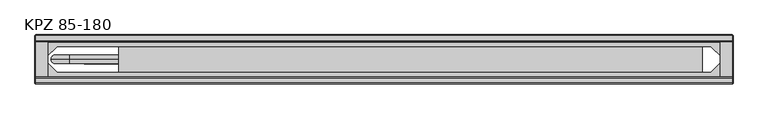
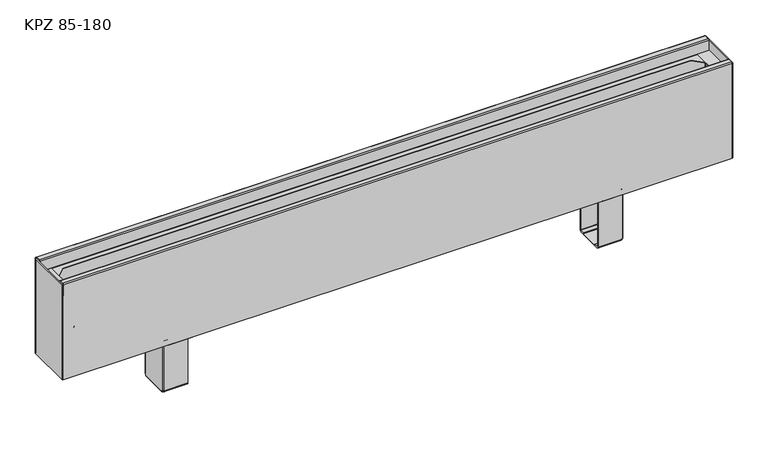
"""IFC4 building model written with IfcOpenShell, lengths in millimetres: proxy geometry, TECHNO_Конвектор напольный_Vita KPZ 85 : KPZ 85-180."""

from ifc_helpers import new_model, si_unit, point, frame, origin, place, context, project, spatial, polyline, circle_curve, ellipse_curve, trimmed, outline, extrude, source, transform, mapped, element, save
from ifc_brep_helpers import plane_surface, cylinder_surface, revolved_surface, advanced_brep


def kpz_85_180_26914a68(model_context):
    return source(origin(), model_context, "Body", "SolidModel", [
        advanced_brep(
        [(409.7, -116.8, 1.5), (409.7, -114.5, 3.8), (409.7, -114.5, 4.9), (409.7, -116.0, 4.9), (409.7, -116.0, 3.8), (409.7, -116.8, 3.0), (409.7, -124.5, 3.0), (409.7, -124.5, 1.5), (409.7, -117.6, 1.5), (409.7, -114.5, 97.7), (409.7, -113.7, 98.5), (409.7, -101.0, 98.5), (409.7, -101.0, 100.0), (409.7, -113.7, 100.0), (409.7, -116.0, 97.7), (409.7, -116.0, 95.5), (409.7, -114.5, 95.5), (409.7, -170.5, 3.8), (409.7, -168.2, 1.5), (409.7, -167.4, 1.5), (409.7, -160.5, 1.5), (409.7, -160.5, 3.0), (409.7, -168.2, 3.0), (409.7, -169.0, 3.8), (409.7, -169.0, 4.9), (409.7, -170.5, 4.9), (409.7, -169.0, 97.7), (409.7, -171.3, 100.0), (409.7, -184.0, 100.0), (409.7, -184.0, 98.5), (409.7, -171.3, 98.5), (409.7, -170.5, 97.7), (409.7, -170.5, 95.5), (409.7, -169.0, 95.5), (367.0, -170.5, 97.7), (367.0, -171.3, 98.5), (367.0, -184.0, 98.5), (367.0, -184.0, 100.0), (367.0, -171.3, 100.0), (367.0, -169.0, 97.7), (367.0, -169.0, 3.8), (367.0, -168.2, 3.0), (367.0, -160.5, 3.0), (367.0, -160.5, 1.5), (367.0, -124.5, 1.5), (367.0, -124.5, 3.0), (367.0, -116.8, 3.0), (367.0, -116.0, 3.8), (367.0, -116.0, 97.7), (367.0, -113.7, 100.0), (367.0, -101.0, 100.0), (367.0, -101.0, 98.5), (367.0, -113.7, 98.5), (367.0, -114.5, 97.7), (367.0, -114.5, 3.8), (367.0, -116.8, 1.5), (367.0, -117.6, 1.5), (367.0, -117.6, 0.0), (367.0, -167.4, 0.0), (367.0, -167.4, 1.5), (367.0, -168.2, 1.5), (367.0, -170.5, 3.8), (410.5, -116.8, 95.5), (410.5, -168.2, 95.5), (412.0, -168.2, 95.5), (412.0, -116.8, 95.5), (412.0, -116.8, 4.9), (412.0, -117.6, 4.9), (410.5, -117.6, 4.9), (410.5, -116.8, 4.9), (410.5, -168.2, 4.9), (410.5, -167.4, 4.9), (412.0, -167.4, 4.9), (412.0, -168.2, 4.9), (410.5, -117.6, 2.3), (410.5, -167.4, 2.3), (412.0, -167.4, 2.3), (412.0, -117.6, 2.3), (409.7, -117.6, 0.0), (409.7, -167.4, 0.0)],
        [
            (0, 1, circle_curve(frame((409.7, -116.8, 3.8), z_axis=(1.0, 0.0, 0.0), x_axis=(0.0, -1.0, 0.0)), 2.3)),
            (1, 2),
            (2, 3),
            (3, 4),
            (4, 5, circle_curve(frame((409.7, -116.8, 3.8), z_axis=(-1.0, 0.0, 0.0), x_axis=(0.0, -1.0, 0.0)), 0.8)),
            (5, 6),
            (6, 7),
            (7, 8),
            (8, 0),
            (9, 10, circle_curve(frame((409.7, -113.7, 97.7), z_axis=(-1.0, 0.0, 0.0), x_axis=(0.0, -1.0, 0.0)), 0.8)),
            (10, 11),
            (11, 12),
            (12, 13),
            (13, 14, circle_curve(frame((409.7, -113.7, 97.7), z_axis=(1.0, 0.0, 0.0), x_axis=(0.0, -1.0, 0.0)), 2.3)),
            (14, 15),
            (15, 16),
            (16, 9),
            (17, 18, circle_curve(frame((409.7, -168.2, 3.8), z_axis=(1.0, 0.0, 0.0), x_axis=(0.0, -1.0, 0.0)), 2.3)),
            (18, 19),
            (19, 20),
            (20, 21),
            (21, 22),
            (22, 23, circle_curve(frame((409.7, -168.2, 3.8), z_axis=(-1.0, 0.0, 0.0), x_axis=(0.0, -1.0, 0.0)), 0.8)),
            (23, 24),
            (24, 25),
            (25, 17),
            (26, 27, circle_curve(frame((409.7, -171.3, 97.7), z_axis=(1.0, 0.0, 0.0), x_axis=(0.0, -1.0, 0.0)), 2.3)),
            (27, 28),
            (28, 29),
            (29, 30),
            (30, 31, circle_curve(frame((409.7, -171.3, 97.7), z_axis=(-1.0, 0.0, 0.0), x_axis=(0.0, -1.0, 0.0)), 0.8)),
            (31, 32),
            (32, 33),
            (33, 26),
            (34, 35, circle_curve(frame((367.0, -171.3, 97.7), z_axis=(1.0, 0.0, 0.0), x_axis=(0.0, -1.0, 0.0)), 0.8)),
            (35, 36),
            (36, 37),
            (37, 38),
            (38, 39, circle_curve(frame((367.0, -171.3, 97.7), z_axis=(-1.0, 0.0, 0.0), x_axis=(0.0, -1.0, 0.0)), 2.3)),
            (39, 40),
            (40, 41, circle_curve(frame((367.0, -168.2, 3.8), z_axis=(1.0, 0.0, 0.0), x_axis=(0.0, -1.0, 0.0)), 0.8)),
            (41, 42),
            (42, 43),
            (43, 44),
            (44, 45),
            (45, 46),
            (46, 47, circle_curve(frame((367.0, -116.8, 3.8), z_axis=(1.0, 0.0, 0.0), x_axis=(0.0, -1.0, 0.0)), 0.8)),
            (47, 48),
            (48, 49, circle_curve(frame((367.0, -113.7, 97.7), z_axis=(-1.0, 0.0, 0.0), x_axis=(0.0, -1.0, 0.0)), 2.3)),
            (49, 50),
            (50, 51),
            (51, 52),
            (52, 53, circle_curve(frame((367.0, -113.7, 97.7), z_axis=(1.0, 0.0, 0.0), x_axis=(0.0, -1.0, 0.0)), 0.8)),
            (53, 54),
            (54, 55, circle_curve(frame((367.0, -116.8, 3.8), z_axis=(-1.0, 0.0, 0.0), x_axis=(0.0, -1.0, 0.0)), 2.3)),
            (55, 56),
            (56, 57),
            (57, 58),
            (58, 59),
            (59, 60),
            (60, 61, circle_curve(frame((367.0, -168.2, 3.8), z_axis=(-1.0, 0.0, 0.0), x_axis=(0.0, -1.0, 0.0)), 2.3)),
            (61, 34),
            (30, 35),
            (34, 31),
            (29, 36),
            (28, 37),
            (27, 38),
            (26, 39),
            (33, 24),
            (23, 40),
            (22, 41),
            (5, 46),
            (45, 6),
            (4, 47),
            (3, 15),
            (14, 48),
            (13, 49),
            (12, 50),
            (11, 51),
            (10, 52),
            (9, 53),
            (16, 2),
            (1, 54),
            (0, 55),
            (8, 56),
            (17, 61),
            (60, 18),
            (25, 32),
            (21, 42),
            (20, 43),
            (59, 19),
            (44, 7),
            (15, 62, circle_curve(frame((409.7, -116.8, 95.5), z_axis=(0.0, 0.0, -1.0), x_axis=(-1.0, 0.0, 0.0)), 0.8)),
            (62, 63),
            (63, 33, circle_curve(frame((409.7, -168.2, 95.5), z_axis=(0.0, 0.0, -1.0), x_axis=(-1.0, 0.0, 0.0)), 0.8)),
            (32, 64, circle_curve(frame((409.7, -168.2, 95.5), z_axis=(0.0, 0.0, 1.0), x_axis=(-1.0, 0.0, 0.0)), 2.3)),
            (64, 65),
            (65, 16, circle_curve(frame((409.7, -116.8, 95.5), z_axis=(0.0, 0.0, 1.0), x_axis=(-1.0, 0.0, 0.0)), 2.3)),
            (2, 66, circle_curve(frame((409.7, -116.8, 4.9), z_axis=(0.0, 0.0, -1.0), x_axis=(-1.0, 0.0, 0.0)), 2.3)),
            (66, 67),
            (67, 68),
            (68, 69),
            (69, 3, circle_curve(frame((409.7, -116.8, 4.9), z_axis=(0.0, 0.0, 1.0), x_axis=(-1.0, 0.0, 0.0)), 0.8)),
            (24, 70, circle_curve(frame((409.7, -168.2, 4.9), z_axis=(0.0, 0.0, 1.0), x_axis=(-1.0, 0.0, 0.0)), 0.8)),
            (70, 71),
            (71, 72),
            (72, 73),
            (73, 25, circle_curve(frame((409.7, -168.2, 4.9), z_axis=(0.0, 0.0, -1.0), x_axis=(-1.0, 0.0, 0.0)), 2.3)),
            (69, 62),
            (68, 74),
            (74, 75),
            (75, 71),
            (70, 63),
            (64, 73),
            (72, 76),
            (76, 77),
            (77, 67),
            (66, 65),
            (8, 74, circle_curve(frame((409.7, -117.6, 2.3), z_axis=(0.0, -1.0, 0.0), x_axis=(-1.0, 0.0, 0.0)), 0.8)),
            (77, 78, circle_curve(frame((409.7, -117.6, 2.3), z_axis=(0.0, 1.0, 0.0), x_axis=(-1.0, 0.0, 0.0)), 2.3)),
            (78, 57),
            (58, 79),
            (79, 76, circle_curve(frame((409.7, -167.4, 2.3), z_axis=(0.0, -1.0, 0.0), x_axis=(-1.0, 0.0, 0.0)), 2.3)),
            (75, 19, circle_curve(frame((409.7, -167.4, 2.3), z_axis=(0.0, 1.0, 0.0), x_axis=(-1.0, 0.0, 0.0)), 0.8)),
            (20, 7),
            (79, 78),
        ],
        [
            plane_surface(frame((409.7, -172.1, 97.7), z_axis=(1.0, 0.0, 0.0), x_axis=(0.0, 0.0, 1.0))),
            plane_surface(frame((367.0, -172.1, 97.7), z_axis=(-1.0, 0.0, 0.0), x_axis=(0.0, 0.0, -1.0))),
            revolved_surface(polyline([(409.7, -172.10000000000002, 97.7), (367.0, -172.10000000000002, 97.7)]), (409.7, -171.3, 97.7), (1.0, 0.0, 0.0)),
            plane_surface(frame((367.0, -171.3, 98.5), z_axis=(0.0, 0.0, -1.0), x_axis=(1.0, 0.0, 0.0))),
            plane_surface(frame((367.0, -184.0, 98.5), z_axis=(0.0, -1.0, 0.0), x_axis=(1.0, 0.0, 0.0))),
            plane_surface(frame((367.0, -184.0, 100.0), z_axis=(0.0, 0.0, 1.0), x_axis=(1.0, 0.0, 0.0))),
            cylinder_surface(frame((409.7, -171.3, 97.7), z_axis=(-1.0, 0.0, 0.0), x_axis=(0.0, -1.0, 0.0)), 2.3),
            plane_surface(frame((367.0, -169.0, 97.7), z_axis=(0.0, 1.0, 3.6919938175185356e-12), x_axis=(1.0, 0.0, 0.0))),
            revolved_surface(polyline([(409.7, -169.0, 3.8), (367.0, -169.0, 3.8)]), (409.7, -168.2, 3.8), (1.0, 0.0, 0.0)),
            plane_surface(frame((367.0, -124.5, 3.0), z_axis=(0.0, 0.0, 1.0), x_axis=(1.0, 0.0, 0.0))),
            revolved_surface(polyline([(409.7, -117.6, 3.8), (367.0, -117.6, 3.8)]), (412.0, -116.8, 3.8), (1.0, 0.0, 0.0)),
            plane_surface(frame((367.0, -116.0, 3.8), z_axis=(0.0, -1.0, 0.0), x_axis=(1.0, 0.0, 0.0))),
            cylinder_surface(frame((412.0, -113.7, 97.7), z_axis=(-1.0, 0.0, 0.0), x_axis=(0.0, -1.0, 0.0)), 2.3),
            plane_surface(frame((367.0, -113.7, 100.0), z_axis=(0.0, 0.0, 1.0), x_axis=(1.0, 0.0, 0.0))),
            plane_surface(frame((367.0, -101.0, 100.0), z_axis=(0.0, 1.0, 0.0), x_axis=(1.0, 0.0, 0.0))),
            plane_surface(frame((367.0, -101.0, 98.5), z_axis=(0.0, 0.0, -1.0), x_axis=(1.0, 0.0, 0.0))),
            revolved_surface(polyline([(409.7, -114.5, 97.7), (367.0, -114.5, 97.7)]), (412.0, -113.7, 97.7), (1.0, 0.0, 0.0)),
            plane_surface(frame((367.0, -114.5, 97.7), z_axis=(0.0, 1.0, 0.0), x_axis=(1.0, 0.0, 0.0))),
            cylinder_surface(frame((412.0, -116.8, 3.8), z_axis=(-1.0, 0.0, 0.0), x_axis=(0.0, -1.0, 0.0)), 2.3),
            plane_surface(frame((367.0, -116.8, 1.5), z_axis=(0.0, 0.0, -1.0), x_axis=(1.0, 0.0, 0.0))),
            cylinder_surface(frame((409.7, -168.2, 3.8), z_axis=(-1.0, 0.0, 0.0), x_axis=(0.0, -1.0, 0.0)), 2.3),
            plane_surface(frame((367.0, -170.5, 3.8), z_axis=(0.0, -1.0, 0.0), x_axis=(1.0, 0.0, 0.0))),
            plane_surface(frame((367.0, -168.2, 3.0), z_axis=(0.0, 0.0, 1.0), x_axis=(1.0, 0.0, 0.0))),
            plane_surface(frame((367.0, -160.5, 3.0), z_axis=(0.0, 1.0, 0.0), x_axis=(1.0, 0.0, 0.0))),
            plane_surface(frame((367.0, -160.5, 1.5), z_axis=(0.0, 0.0, -1.0), x_axis=(1.0, 0.0, 0.0))),
            plane_surface(frame((367.0, -124.5, 1.5), z_axis=(0.0, -1.0, 0.0), x_axis=(1.0, 0.0, 0.0))),
            plane_surface(frame((409.7, -116.0, 95.5), z_axis=(0.0, 0.0, 1.0), x_axis=(0.0, -1.0, 0.0))),
            plane_surface(frame((409.7, -116.0, 4.9), z_axis=(0.0, 0.0, -1.0), x_axis=(0.0, 1.0, 0.0))),
            revolved_surface(polyline([(408.9, -116.8, 4.9), (408.9, -116.8, 95.5)]), (409.7, -116.8, 4.9), (0.0, 0.0, -1.0)),
            plane_surface(frame((410.5, -116.8, 95.5), z_axis=(-1.0, 0.0, 0.0), x_axis=(0.0, 0.0, -1.0))),
            plane_surface(frame((412.0, -117.6, 95.5), z_axis=(1.0, -4.3226800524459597e-10, 0.0), x_axis=(0.0, 0.0, -1.0))),
            cylinder_surface(frame((409.7, -116.8, 4.9), z_axis=(0.0, 0.0, 1.0), x_axis=(-1.0, 0.0, 0.0)), 2.3),
            cylinder_surface(frame((409.7, -168.2, 0.0), z_axis=(0.0, 0.0, 1.0), x_axis=(-1.0, 0.0, 0.0)), 2.3),
            revolved_surface(polyline([(408.9, -168.2, 4.9), (408.9, -168.2, 95.5)]), (409.7, -168.2, 0.0), (0.0, 0.0, -1.0)),
            plane_surface(frame((367.0, -117.6, 1.5), z_axis=(0.0, 1.0, 0.0), x_axis=(0.0, 0.0, 1.0))),
            plane_surface(frame((367.0, -167.4, 1.5), z_axis=(0.0, -1.0, 0.0), x_axis=(0.0, 0.0, -1.0))),
            plane_surface(frame((367.0, -117.6, 1.5), z_axis=(0.0, 0.0, 1.0), x_axis=(0.0, -1.0, 0.0))),
            revolved_surface(polyline([(408.9, -167.4, 2.3), (408.9, -117.6, 2.3)]), (409.7, -167.4, 2.3), (0.0, -1.0, 0.0)),
            cylinder_surface(frame((409.7, -167.4, 2.3), z_axis=(0.0, 1.0, 0.0), x_axis=(-1.0, 0.0, 0.0)), 2.3),
            plane_surface(frame((409.7, -117.6, 0.0), z_axis=(0.0, 0.0, -1.0), x_axis=(0.0, -1.0, 0.0))),
        ],
        [
            (0, [[1, 2, 3, 4, 5, 6, 7, 8, 9]]),
            (0, [[10, 11, 12, 13, 14, 15, 16, 17]]),
            (0, [[18, 19, 20, 21, 22, 23, 24, 25, 26]]),
            (0, [[27, 28, 29, 30, 31, 32, 33, 34]]),
            (1, [[35, 36, 37, 38, 39, 40, 41, 42, 43, 44, 45, 46, 47, 48, 49, 50, 51, 52, 53, 54, 55, 56, 57, 58, 59, 60, 61, 62]]),
            (2, [[-31, 63, -35, 64]]),
            (3, [[-30, 65, -36, -63]]),
            (4, [[-29, 66, -37, -65]]),
            (5, [[-28, 67, -38, -66]]),
            (6, [[-27, 68, -39, -67]]),
            (7, [[-40, -68, -34, 69, -24, 70]]),
            (8, [[-23, 71, -41, -70]]),
            (9, [[-6, 72, -46, 73]]),
            (10, [[-5, 74, -47, -72]]),
            (11, [[-48, -74, -4, 75, -15, 76]]),
            (12, [[-14, 77, -49, -76]]),
            (13, [[-13, 78, -50, -77]]),
            (14, [[-12, 79, -51, -78]]),
            (15, [[-11, 80, -52, -79]]),
            (16, [[-10, 81, -53, -80]]),
            (17, [[-54, -81, -17, 82, -2, 83]]),
            (18, [[-1, 84, -55, -83]]),
            (19, [[-84, -9, 85, -56]]),
            (20, [[-18, 86, -61, 87]]),
            (21, [[-62, -86, -26, 88, -32, -64]]),
            (22, [[-22, 89, -42, -71]]),
            (23, [[-21, 90, -43, -89]]),
            (24, [[-87, -60, 91, -19]]),
            (25, [[-7, -73, -45, 92]]),
            (26, [[93, 94, 95, -33, 96, 97, 98, -16]]),
            (27, [[99, 100, 101, 102, 103, -3]]),
            (27, [[104, 105, 106, 107, 108, -25]]),
            (28, [[-93, -75, -103, 109]]),
            (29, [[-94, -109, -102, 110, 111, 112, -105, 113]]),
            (30, [[-97, 114, -107, 115, 116, 117, -100, 118]]),
            (31, [[-98, -118, -99, -82]]),
            (32, [[-96, -88, -108, -114]]),
            (33, [[-95, -113, -104, -69]]),
            (34, [[-57, -85, 119, -110, -101, -117, 120, 121]]),
            (35, [[122, 123, -115, -106, -112, 124, -91, -59]]),
            (36, [[125, -92, -44, -90]]),
            (37, [[-119, -8, -125, -20, -124, -111]]),
            (38, [[-120, -116, -123, 126]]),
            (39, [[-121, -126, -122, -58]]),
        ],
    ),
        advanced_brep(
        [(-409.7, -168.2, 1.5), (-409.7, -170.5, 3.8), (-409.7, -170.5, 4.9), (-409.7, -169.0, 4.9), (-409.7, -169.0, 3.8), (-409.7, -168.2, 3.0), (-409.7, -160.5, 3.0), (-409.7, -160.5, 1.5), (-409.7, -167.4, 1.5), (-409.7, -170.5, 97.7), (-409.7, -171.3, 98.5), (-409.7, -184.0, 98.5), (-409.7, -184.0, 100.0), (-409.7, -171.3, 100.0), (-409.7, -169.0, 97.7), (-409.7, -169.0, 95.5), (-409.7, -170.5, 95.5), (-409.7, -114.5, 3.8), (-409.7, -116.8, 1.5), (-409.7, -117.6, 1.5), (-409.7, -124.5, 1.5), (-409.7, -124.5, 3.0), (-409.7, -116.8, 3.0), (-409.7, -116.0, 3.8), (-409.7, -116.0, 4.9), (-409.7, -114.5, 4.9), (-409.7, -116.0, 97.7), (-409.7, -113.7, 100.0), (-409.7, -101.0, 100.0), (-409.7, -101.0, 98.5), (-409.7, -113.7, 98.5), (-409.7, -114.5, 97.7), (-409.7, -114.5, 95.5), (-409.7, -116.0, 95.5), (-367.0, -114.5, 97.7), (-367.0, -113.7, 98.5), (-367.0, -101.0, 98.5), (-367.0, -101.0, 100.0), (-367.0, -113.7, 100.0), (-367.0, -116.0, 97.7), (-367.0, -116.0, 3.8), (-367.0, -116.8, 3.0), (-367.0, -124.5, 3.0), (-367.0, -124.5, 1.5), (-367.0, -160.5, 1.5), (-367.0, -160.5, 3.0), (-367.0, -168.2, 3.0), (-367.0, -169.0, 3.8), (-367.0, -169.0, 97.7), (-367.0, -171.3, 100.0), (-367.0, -184.0, 100.0), (-367.0, -184.0, 98.5), (-367.0, -171.3, 98.5), (-367.0, -170.5, 97.7), (-367.0, -170.5, 3.8), (-367.0, -168.2, 1.5), (-367.0, -167.4, 1.5), (-367.0, -167.4, 0.0), (-367.0, -117.6, 0.0), (-367.0, -117.6, 1.5), (-367.0, -116.8, 1.5), (-367.0, -114.5, 3.8), (-410.5, -168.2, 95.5), (-410.5, -116.8, 95.5), (-412.0, -116.8, 95.5), (-412.0, -168.2, 95.5), (-412.0, -168.2, 4.9), (-412.0, -167.4, 4.9), (-410.5, -167.4, 4.9), (-410.5, -168.2, 4.9), (-410.5, -116.8, 4.9), (-410.5, -117.6, 4.9), (-412.0, -117.6, 4.9), (-412.0, -116.8, 4.9), (-410.5, -167.4, 2.3), (-410.5, -117.6, 2.3), (-412.0, -117.6, 2.3), (-412.0, -167.4, 2.3), (-409.7, -167.4, 0.0), (-409.7, -117.6, 0.0)],
        [
            (0, 1, circle_curve(frame((-409.7, -168.2, 3.8), z_axis=(-1.0, 0.0, 0.0), x_axis=(0.0, 1.0, 0.0)), 2.3)),
            (1, 2),
            (2, 3),
            (3, 4),
            (4, 5, circle_curve(frame((-409.7, -168.2, 3.8), z_axis=(1.0, 0.0, 0.0), x_axis=(0.0, 1.0, 0.0)), 0.8)),
            (5, 6),
            (6, 7),
            (7, 8),
            (8, 0),
            (9, 10, circle_curve(frame((-409.7, -171.3, 97.7), z_axis=(1.0, 0.0, 0.0), x_axis=(0.0, 1.0, 0.0)), 0.8)),
            (10, 11),
            (11, 12),
            (12, 13),
            (13, 14, circle_curve(frame((-409.7, -171.3, 97.7), z_axis=(-1.0, 0.0, 0.0), x_axis=(0.0, 1.0, 0.0)), 2.3)),
            (14, 15),
            (15, 16),
            (16, 9),
            (17, 18, circle_curve(frame((-409.7, -116.8, 3.8), z_axis=(-1.0, 0.0, 0.0), x_axis=(0.0, 1.0, 0.0)), 2.3)),
            (18, 19),
            (19, 20),
            (20, 21),
            (21, 22),
            (22, 23, circle_curve(frame((-409.7, -116.8, 3.8), z_axis=(1.0, 0.0, 0.0), x_axis=(0.0, 1.0, 0.0)), 0.8)),
            (23, 24),
            (24, 25),
            (25, 17),
            (26, 27, circle_curve(frame((-409.7, -113.7, 97.7), z_axis=(-1.0, 0.0, 0.0), x_axis=(0.0, 1.0, 0.0)), 2.3)),
            (27, 28),
            (28, 29),
            (29, 30),
            (30, 31, circle_curve(frame((-409.7, -113.7, 97.7), z_axis=(1.0, 0.0, 0.0), x_axis=(0.0, 1.0, 0.0)), 0.8)),
            (31, 32),
            (32, 33),
            (33, 26),
            (34, 35, circle_curve(frame((-367.0, -113.7, 97.7), z_axis=(-1.0, 0.0, 0.0), x_axis=(0.0, 1.0, 0.0)), 0.8)),
            (35, 36),
            (36, 37),
            (37, 38),
            (38, 39, circle_curve(frame((-367.0, -113.7, 97.7), z_axis=(1.0, 0.0, 0.0), x_axis=(0.0, 1.0, 0.0)), 2.3)),
            (39, 40),
            (40, 41, circle_curve(frame((-367.0, -116.8, 3.8), z_axis=(-1.0, 0.0, 0.0), x_axis=(0.0, 1.0, 0.0)), 0.8)),
            (41, 42),
            (42, 43),
            (43, 44),
            (44, 45),
            (45, 46),
            (46, 47, circle_curve(frame((-367.0, -168.2, 3.8), z_axis=(-1.0, 0.0, 0.0), x_axis=(0.0, 1.0, 0.0)), 0.8)),
            (47, 48),
            (48, 49, circle_curve(frame((-367.0, -171.3, 97.7), z_axis=(1.0, 0.0, 0.0), x_axis=(0.0, 1.0, 0.0)), 2.3)),
            (49, 50),
            (50, 51),
            (51, 52),
            (52, 53, circle_curve(frame((-367.0, -171.3, 97.7), z_axis=(-1.0, 0.0, 0.0), x_axis=(0.0, 1.0, 0.0)), 0.8)),
            (53, 54),
            (54, 55, circle_curve(frame((-367.0, -168.2, 3.8), z_axis=(1.0, 0.0, 0.0), x_axis=(0.0, 1.0, 0.0)), 2.3)),
            (55, 56),
            (56, 57),
            (57, 58),
            (58, 59),
            (59, 60),
            (60, 61, circle_curve(frame((-367.0, -116.8, 3.8), z_axis=(1.0, 0.0, 0.0), x_axis=(0.0, 1.0, 0.0)), 2.3)),
            (61, 34),
            (30, 35),
            (34, 31),
            (29, 36),
            (28, 37),
            (27, 38),
            (26, 39),
            (33, 24),
            (23, 40),
            (22, 41),
            (5, 46),
            (45, 6),
            (4, 47),
            (3, 15),
            (14, 48),
            (13, 49),
            (12, 50),
            (11, 51),
            (10, 52),
            (9, 53),
            (16, 2),
            (1, 54),
            (0, 55),
            (8, 56),
            (17, 61),
            (60, 18),
            (25, 32),
            (21, 42),
            (20, 43),
            (59, 19),
            (44, 7),
            (15, 62, circle_curve(frame((-409.7, -168.2, 95.5), z_axis=(0.0, 0.0, -1.0), x_axis=(1.0, 0.0, 0.0)), 0.8)),
            (62, 63),
            (63, 33, circle_curve(frame((-409.7, -116.8, 95.5), z_axis=(0.0, 0.0, -1.0), x_axis=(1.0, 0.0, 0.0)), 0.8)),
            (32, 64, circle_curve(frame((-409.7, -116.8, 95.5), z_axis=(0.0, 0.0, 1.0), x_axis=(1.0, 0.0, 0.0)), 2.3)),
            (64, 65),
            (65, 16, circle_curve(frame((-409.7, -168.2, 95.5), z_axis=(0.0, 0.0, 1.0), x_axis=(1.0, 0.0, 0.0)), 2.3)),
            (2, 66, circle_curve(frame((-409.7, -168.2, 4.9), z_axis=(0.0, 0.0, -1.0), x_axis=(1.0, 0.0, 0.0)), 2.3)),
            (66, 67),
            (67, 68),
            (68, 69),
            (69, 3, circle_curve(frame((-409.7, -168.2, 4.9), z_axis=(0.0, 0.0, 1.0), x_axis=(1.0, 0.0, 0.0)), 0.8)),
            (24, 70, circle_curve(frame((-409.7, -116.8, 4.9), z_axis=(0.0, 0.0, 1.0), x_axis=(1.0, 0.0, 0.0)), 0.8)),
            (70, 71),
            (71, 72),
            (72, 73),
            (73, 25, circle_curve(frame((-409.7, -116.8, 4.9), z_axis=(0.0, 0.0, -1.0), x_axis=(1.0, 0.0, 0.0)), 2.3)),
            (69, 62),
            (68, 74),
            (74, 75),
            (75, 71),
            (70, 63),
            (64, 73),
            (72, 76),
            (76, 77),
            (77, 67),
            (66, 65),
            (8, 74, circle_curve(frame((-409.7, -167.4, 2.3), z_axis=(0.0, 1.0, 0.0), x_axis=(1.0, 0.0, 0.0)), 0.8)),
            (77, 78, circle_curve(frame((-409.7, -167.4, 2.3), z_axis=(0.0, -1.0, 0.0), x_axis=(1.0, 0.0, 0.0)), 2.3)),
            (78, 57),
            (58, 79),
            (79, 76, circle_curve(frame((-409.7, -117.6, 2.3), z_axis=(0.0, 1.0, 0.0), x_axis=(1.0, 0.0, 0.0)), 2.3)),
            (75, 19, circle_curve(frame((-409.7, -117.6, 2.3), z_axis=(0.0, -1.0, 0.0), x_axis=(1.0, 0.0, 0.0)), 0.8)),
            (20, 7),
            (79, 78),
        ],
        [
            plane_surface(frame((-409.7, -112.9, 97.7), z_axis=(-1.0, 0.0, 0.0), x_axis=(0.0, 0.0, 1.0))),
            plane_surface(frame((-367.0, -112.9, 97.7), z_axis=(1.0, 0.0, 0.0), x_axis=(0.0, 0.0, -1.0))),
            revolved_surface(polyline([(-409.7, -112.9, 97.7), (-367.0, -112.9, 97.7)]), (-409.7, -113.7, 97.7), (-1.0, 0.0, 0.0)),
            plane_surface(frame((-367.0, -113.7, 98.5), z_axis=(0.0, 0.0, -1.0), x_axis=(-1.0, 0.0, 0.0))),
            plane_surface(frame((-367.0, -101.0, 98.5), z_axis=(0.0, 1.0, 0.0), x_axis=(-1.0, 0.0, 0.0))),
            plane_surface(frame((-367.0, -101.0, 100.0), z_axis=(0.0, 0.0, 1.0), x_axis=(-1.0, 0.0, 0.0))),
            cylinder_surface(frame((-409.7, -113.7, 97.7), z_axis=(1.0, 0.0, 0.0), x_axis=(0.0, 1.0, 0.0)), 2.3),
            plane_surface(frame((-367.0, -116.0, 97.7), z_axis=(0.0, -1.0, 3.6919938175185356e-12), x_axis=(-1.0, 0.0, 0.0))),
            revolved_surface(polyline([(-409.7, -116.0, 3.8), (-367.0, -116.0, 3.8)]), (-409.7, -116.8, 3.8), (-1.0, 0.0, 0.0)),
            plane_surface(frame((-367.0, -160.5, 3.0), z_axis=(0.0, 0.0, 1.0), x_axis=(-1.0, 0.0, 0.0))),
            revolved_surface(polyline([(-409.7, -167.39999999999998, 3.8), (-367.0, -167.39999999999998, 3.8)]), (-412.0, -168.2, 3.8), (-1.0, 0.0, 0.0)),
            plane_surface(frame((-367.0, -169.0, 3.8), z_axis=(0.0, 1.0, 0.0), x_axis=(-1.0, 0.0, 0.0))),
            cylinder_surface(frame((-412.0, -171.3, 97.7), z_axis=(1.0, 0.0, 0.0), x_axis=(0.0, 1.0, 0.0)), 2.3),
            plane_surface(frame((-367.0, -171.3, 100.0), z_axis=(0.0, 0.0, 1.0), x_axis=(-1.0, 0.0, 0.0))),
            plane_surface(frame((-367.0, -184.0, 100.0), z_axis=(0.0, -1.0, 0.0), x_axis=(-1.0, 0.0, 0.0))),
            plane_surface(frame((-367.0, -184.0, 98.5), z_axis=(0.0, 0.0, -1.0), x_axis=(-1.0, 0.0, 0.0))),
            revolved_surface(polyline([(-409.7, -170.5, 97.7), (-367.0, -170.5, 97.7)]), (-412.0, -171.3, 97.7), (-1.0, 0.0, 0.0)),
            plane_surface(frame((-367.0, -170.5, 97.7), z_axis=(0.0, -1.0, 0.0), x_axis=(-1.0, 0.0, 0.0))),
            cylinder_surface(frame((-412.0, -168.2, 3.8), z_axis=(1.0, 0.0, 0.0), x_axis=(0.0, 1.0, 0.0)), 2.3),
            plane_surface(frame((-367.0, -168.2, 1.5), z_axis=(0.0, 0.0, -1.0), x_axis=(-1.0, 0.0, 0.0))),
            cylinder_surface(frame((-409.7, -116.8, 3.8), z_axis=(1.0, 0.0, 0.0), x_axis=(0.0, 1.0, 0.0)), 2.3),
            plane_surface(frame((-367.0, -114.5, 3.8), z_axis=(0.0, 1.0, 0.0), x_axis=(-1.0, 0.0, 0.0))),
            plane_surface(frame((-367.0, -116.8, 3.0), z_axis=(0.0, 0.0, 1.0), x_axis=(-1.0, 0.0, 0.0))),
            plane_surface(frame((-367.0, -124.5, 3.0), z_axis=(0.0, -1.0, 0.0), x_axis=(-1.0, 0.0, 0.0))),
            plane_surface(frame((-367.0, -124.5, 1.5), z_axis=(0.0, 0.0, -1.0), x_axis=(-1.0, 0.0, 0.0))),
            plane_surface(frame((-367.0, -160.5, 1.5), z_axis=(0.0, 1.0, 0.0), x_axis=(-1.0, 0.0, 0.0))),
            plane_surface(frame((-409.7, -169.0, 95.5), z_axis=(0.0, 0.0, 1.0), x_axis=(0.0, 1.0, 0.0))),
            plane_surface(frame((-409.7, -169.0, 4.9), z_axis=(0.0, 0.0, -1.0), x_axis=(0.0, -1.0, 0.0))),
            revolved_surface(polyline([(-408.9, -168.2, 4.9), (-408.9, -168.2, 95.5)]), (-409.7, -168.2, 4.9), (0.0, 0.0, -1.0)),
            plane_surface(frame((-410.5, -168.2, 95.5), z_axis=(1.0, 0.0, 0.0), x_axis=(0.0, 0.0, -1.0))),
            plane_surface(frame((-412.0, -167.4, 95.5), z_axis=(-1.0, 4.322648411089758e-10, 0.0), x_axis=(0.0, 0.0, -1.0))),
            cylinder_surface(frame((-409.7, -168.2, 4.9), z_axis=(0.0, 0.0, 1.0), x_axis=(1.0, 0.0, 0.0)), 2.3),
            cylinder_surface(frame((-409.7, -116.8, 0.0), z_axis=(0.0, 0.0, 1.0), x_axis=(1.0, 0.0, 0.0)), 2.3),
            revolved_surface(polyline([(-408.9, -116.8, 4.9), (-408.9, -116.8, 95.5)]), (-409.7, -116.8, 0.0), (0.0, 0.0, -1.0)),
            plane_surface(frame((-367.0, -167.4, 1.5), z_axis=(0.0, -1.0, 0.0), x_axis=(0.0, 0.0, 1.0))),
            plane_surface(frame((-367.0, -117.6, 1.5), z_axis=(0.0, 1.0, 0.0), x_axis=(0.0, 0.0, -1.0))),
            plane_surface(frame((-367.0, -167.4, 1.5), z_axis=(0.0, 0.0, 1.0), x_axis=(0.0, 1.0, 0.0))),
            revolved_surface(polyline([(-408.9, -117.6, 2.3), (-408.9, -167.4, 2.3)]), (-409.7, -117.6, 2.3), (0.0, 1.0, 0.0)),
            cylinder_surface(frame((-409.7, -117.6, 2.3), z_axis=(0.0, -1.0, 0.0), x_axis=(1.0, 0.0, 0.0)), 2.3),
            plane_surface(frame((-409.7, -167.4, 0.0), z_axis=(0.0, 0.0, -1.0), x_axis=(0.0, 1.0, 0.0))),
        ],
        [
            (0, [[1, 2, 3, 4, 5, 6, 7, 8, 9]]),
            (0, [[10, 11, 12, 13, 14, 15, 16, 17]]),
            (0, [[18, 19, 20, 21, 22, 23, 24, 25, 26]]),
            (0, [[27, 28, 29, 30, 31, 32, 33, 34]]),
            (1, [[35, 36, 37, 38, 39, 40, 41, 42, 43, 44, 45, 46, 47, 48, 49, 50, 51, 52, 53, 54, 55, 56, 57, 58, 59, 60, 61, 62]]),
            (2, [[-31, 63, -35, 64]]),
            (3, [[-30, 65, -36, -63]]),
            (4, [[-29, 66, -37, -65]]),
            (5, [[-28, 67, -38, -66]]),
            (6, [[-27, 68, -39, -67]]),
            (7, [[-40, -68, -34, 69, -24, 70]]),
            (8, [[-23, 71, -41, -70]]),
            (9, [[-6, 72, -46, 73]]),
            (10, [[-5, 74, -47, -72]]),
            (11, [[-48, -74, -4, 75, -15, 76]]),
            (12, [[-14, 77, -49, -76]]),
            (13, [[-13, 78, -50, -77]]),
            (14, [[-12, 79, -51, -78]]),
            (15, [[-11, 80, -52, -79]]),
            (16, [[-10, 81, -53, -80]]),
            (17, [[-54, -81, -17, 82, -2, 83]]),
            (18, [[-1, 84, -55, -83]]),
            (19, [[-84, -9, 85, -56]]),
            (20, [[-18, 86, -61, 87]]),
            (21, [[-62, -86, -26, 88, -32, -64]]),
            (22, [[-22, 89, -42, -71]]),
            (23, [[-21, 90, -43, -89]]),
            (24, [[-87, -60, 91, -19]]),
            (25, [[-7, -73, -45, 92]]),
            (26, [[93, 94, 95, -33, 96, 97, 98, -16]]),
            (27, [[99, 100, 101, 102, 103, -3]]),
            (27, [[104, 105, 106, 107, 108, -25]]),
            (28, [[-93, -75, -103, 109]]),
            (29, [[-94, -109, -102, 110, 111, 112, -105, 113]]),
            (30, [[-97, 114, -107, 115, 116, 117, -100, 118]]),
            (31, [[-98, -118, -99, -82]]),
            (32, [[-96, -88, -108, -114]]),
            (33, [[-95, -113, -104, -69]]),
            (34, [[-57, -85, 119, -110, -101, -117, 120, 121]]),
            (35, [[122, 123, -115, -106, -112, 124, -91, -59]]),
            (36, [[125, -92, -44, -90]]),
            (37, [[-119, -8, -125, -20, -124, -111]]),
            (38, [[-120, -116, -123, 126]]),
            (39, [[-121, -126, -122, -58]]),
        ],
    ),
        advanced_brep(
        [(-455.64, -142.5, 186.5), (-455.64, -142.5, 171.5), (-540.0, -142.5, 186.5), (-540.0, -142.5, 171.5), (-557.5, -142.5, 154.0), (-572.5, -142.5, 154.0), (-572.5, -142.5, 100.0), (-557.5, -142.5, 100.0)],
        [
            (0, 1, circle_curve(frame((-455.64, -142.5, 179.0), z_axis=(1.0, 0.0, 0.0), x_axis=(0.0, 0.0, -1.0)), 7.5)),
            (1, 0, circle_curve(frame((-455.64, -142.5, 179.0), z_axis=(1.0, 0.0, 0.0), x_axis=(0.0, 0.0, -1.0)), 7.5)),
            (0, 2),
            (2, 3, circle_curve(frame((-540.0, -142.5, 179.0), z_axis=(1.0, 0.0, 0.0), x_axis=(0.0, 0.0, -1.0)), 7.5)),
            (3, 1),
            (3, 2, circle_curve(frame((-540.0, -142.5, 179.0), z_axis=(1.0, 0.0, 0.0), x_axis=(0.0, 0.0, -1.0)), 7.5)),
            (4, 3, circle_curve(frame((-540.0, -142.5, 154.0), z_axis=(0.0, 1.0, 0.0), x_axis=(0.0, 0.0, 1.0)), 17.5)),
            (2, 5, circle_curve(frame((-540.0, -142.5, 154.0), z_axis=(0.0, -1.0, 0.0), x_axis=(0.0, 0.0, 1.0)), 32.5)),
            (5, 4, circle_curve(frame((-565.0, -142.5, 154.0), z_axis=(0.0, 0.0, 1.0), x_axis=(1.0, 0.0, 0.0)), 7.5)),
            (4, 5, circle_curve(frame((-565.0, -142.5, 154.0), z_axis=(0.0, 0.0, 1.0), x_axis=(1.0, 0.0, 0.0)), 7.5)),
            (6, 7, circle_curve(frame((-565.0, -142.5, 100.0), z_axis=(0.0, 0.0, -1.0), x_axis=(1.0, 0.0, 0.0)), 7.5)),
            (7, 6, circle_curve(frame((-565.0, -142.5, 100.0), z_axis=(0.0, 0.0, -1.0), x_axis=(1.0, 0.0, 0.0)), 7.5)),
            (5, 6),
            (7, 4),
        ],
        [
            plane_surface(frame((-455.64, -142.5, 179.0), z_axis=(1.0, 0.0, 0.0), x_axis=(0.0, -1.0, 0.0))),
            cylinder_surface(frame((-455.64, -142.5, 179.0), z_axis=(1.0, 0.0, 0.0), x_axis=(0.0, 0.0, -1.0)), 7.5),
            revolved_surface(trimmed(ellipse_curve(frame((-540.0, -142.5, 179.0), z_axis=(1.0, 0.0, 0.0), x_axis=(0.0, 0.0, -1.0)), 7.5, 7.5), [point((-540.0, -142.5, 186.5))], [point((-540.0, -142.5, 171.5))], True, "CARTESIAN"), (-540.0, -142.5, 154.0), (0.0, -1.0, 0.0)),
            revolved_surface(trimmed(ellipse_curve(frame((-540.0, -142.5, 179.0), z_axis=(1.0, 0.0, 0.0), x_axis=(0.0, 0.0, -1.0)), 7.5, 7.5), [point((-540.0, -142.5, 171.5))], [point((-540.0, -142.5, 186.5))], True, "CARTESIAN"), (-540.0, -142.5, 154.0), (0.0, -1.0, 0.0)),
            plane_surface(frame((-565.0, -142.5, 100.0), z_axis=(0.0, 0.0, -1.0), x_axis=(0.0, -1.0, 0.0))),
            cylinder_surface(frame((-565.0, -142.5, 154.0), z_axis=(0.0, 0.0, 1.0), x_axis=(1.0, 0.0, 0.0)), 7.5),
        ],
        [
            (0, [[1, 2]]),
            (1, [[-1, 3, 4, 5]]),
            (1, [[-2, -5, 6, -3]]),
            (2, [[7, -4, 8, 9]]),
            (3, [[-8, -6, -7, 10]]),
            (4, [[11, 12]]),
            (5, [[-9, 13, -12, 14]]),
            (5, [[-10, -14, -11, -13]]),
        ],
    ),
        advanced_brep(
        [(-455.64, -142.5, 136.5), (-455.64, -142.5, 121.5), (-522.5, -142.5, 136.5), (-507.5, -142.5, 121.5), (-522.5, -142.5, 100.0), (-507.5, -142.5, 100.0)],
        [
            (0, 1, circle_curve(frame((-455.64, -142.5, 129.0), z_axis=(1.0, 0.0, 0.0), x_axis=(0.0, 0.0, -1.0)), 7.5)),
            (1, 0, circle_curve(frame((-455.64, -142.5, 129.0), z_axis=(1.0, 0.0, 0.0), x_axis=(0.0, 0.0, -1.0)), 7.5)),
            (0, 2),
            (2, 3, ellipse_curve(frame((-515.0, -142.5, 129.0), z_axis=(0.7071067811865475, 0.0, 0.7071067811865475), x_axis=(0.7071067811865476, 0.0, -0.7071067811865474)), 10.6066017, 7.5)),
            (3, 1),
            (3, 2, ellipse_curve(frame((-515.0, -142.5, 129.0), z_axis=(0.7071067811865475, 0.0, 0.7071067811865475), x_axis=(0.7071067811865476, 0.0, -0.7071067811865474)), 10.6066017, 7.5)),
            (4, 5, circle_curve(frame((-515.0, -142.5, 100.0), z_axis=(0.0, 0.0, -1.0), x_axis=(1.0, 0.0, 0.0)), 7.5)),
            (5, 4, circle_curve(frame((-515.0, -142.5, 100.0), z_axis=(0.0, 0.0, -1.0), x_axis=(1.0, 0.0, 0.0)), 7.5)),
            (2, 4),
            (5, 3),
        ],
        [
            plane_surface(frame((-455.64, -142.5, 129.0), z_axis=(1.0, 0.0, 0.0), x_axis=(0.0, -1.0, 0.0))),
            cylinder_surface(frame((-455.64, -142.5, 129.0), z_axis=(1.0, 0.0, 0.0), x_axis=(0.0, 0.0, -1.0)), 7.5),
            plane_surface(frame((-515.0, -142.5, 100.0), z_axis=(0.0, 0.0, -1.0), x_axis=(0.0, -1.0, 0.0))),
            cylinder_surface(frame((-515.0, -142.5, 129.0), z_axis=(0.0, 0.0, 1.0), x_axis=(1.0, 0.0, 0.0)), 7.5),
        ],
        [
            (0, [[1, 2]]),
            (1, [[-1, 3, 4, 5]]),
            (1, [[-2, -5, 6, -3]]),
            (2, [[7, 8]]),
            (3, [[-4, 9, -8, 10]]),
            (3, [[-6, -10, -7, -9]]),
        ],
    ),
        extrude(outline(polyline([(547.36, -117.5), (547.36, -167.5), (-455.64, -167.5), (-455.64, -117.5), (547.36, -117.5)])), frame((0.0, 0.0, 104.7), z_axis=(0.0, 0.0, 1.0), x_axis=(1.0, 0.0, 0.0)), (0.0, 0.0, 1.0), 100.0),
        extrude(outline(polyline([(-585.5004, -102.0), (-585.5004, -183.0), (-599.0, -183.0), (-599.0, -102.0), (-585.5004, -102.0)])), frame((0.0, 0.0, 101.83), z_axis=(0.0, 0.0, 1.0), x_axis=(1.0, 0.0, 0.0)), (0.0, 0.0, 1.0), 1.0002),
        extrude(outline(polyline([(585.5004, -102.0), (599.0, -102.0), (599.0, -183.0), (585.5004, -183.0), (585.5004, -102.0)])), frame((0.0, 0.0, 101.83), z_axis=(0.0, 0.0, 1.0), x_axis=(1.0, 0.0, 0.0)), (0.0, 0.0, 1.0), 1.0002),
        extrude(outline(polyline([(-599.0, -172.2), (-599.0, -112.8), (-578.0, -112.8), (-578.0, -172.2), (-599.0, -172.2)])), frame((0.0, 0.0, 258.83), z_axis=(0.0, 0.0, 1.0), x_axis=(1.0, 0.0, 0.0)), (0.0, 0.0, 1.0), 1.0002),
        extrude(outline(polyline([(599.0, -172.2), (578.0, -172.2), (578.0, -112.8), (599.0, -112.8), (599.0, -172.2)])), frame((0.0, 0.0, 258.83), z_axis=(0.0, 0.0, 1.0), x_axis=(1.0, 0.0, 0.0)), (0.0, 0.0, 1.0), 1.0002),
        advanced_brep(
        [(-598.2, -101.8, 280.83), (-598.2, -100.0, 279.03), (-598.2, -101.0, 279.03), (-598.2, -101.0, 257.83), (-598.2, -138.5, 257.83), (-598.2, -138.5, 258.83), (-598.2, -112.8, 258.83), (-598.2, -112.0, 259.63), (-598.2, -112.0, 279.03), (-598.2, -110.2, 280.83), (-598.2, -183.2, 280.83), (-598.2, -174.8, 280.83), (-598.2, -173.0, 279.03), (-598.2, -173.0, 259.63), (-598.2, -172.2, 258.83), (-598.2, -146.5, 258.83), (-598.2, -146.5, 257.83), (-598.2, -184.0, 257.83), (-598.2, -184.0, 279.03), (-598.2, -185.0, 279.03), (598.2, -101.8, 280.83), (598.2, -110.2, 280.83), (598.2, -112.0, 279.03), (598.2, -112.0, 259.63), (598.2, -112.8, 258.83), (598.2, -138.5, 258.83), (598.2, -138.5, 257.83), (598.2, -101.0, 257.83), (598.2, -101.0, 279.03), (598.2, -100.0, 279.03), (598.2, -183.2, 280.83), (598.2, -185.0, 279.03), (598.2, -184.0, 279.03), (598.2, -184.0, 257.83), (598.2, -146.5, 257.83), (598.2, -146.5, 258.83), (598.2, -172.2, 258.83), (598.2, -173.0, 259.63), (598.2, -173.0, 279.03), (598.2, -174.8, 280.83), (-580.3, -138.5, 258.83), (-561.8, -120.0, 258.83), (561.8, -120.0, 258.83), (580.3, -138.5, 258.83), (-580.3, -138.5, 257.83), (580.3, -138.5, 257.83), (561.8, -120.0, 257.83), (-561.8, -120.0, 257.83), (598.2, -100.0, 100.0), (-598.2, -100.0, 100.0), (-598.2, -185.0, 100.0), (598.2, -185.0, 100.0), (580.3, -146.5, 257.83), (-580.3, -146.5, 257.83), (-561.8, -165.0, 257.83), (561.8, -165.0, 257.83), (-580.3, -146.5, 258.83), (580.3, -146.5, 258.83), (561.8, -165.0, 258.83), (-561.8, -165.0, 258.83), (-600.0, -101.8, 279.03), (-600.0, -183.2, 279.03), (-599.0, -183.2, 279.03), (-599.0, -101.8, 279.03), (600.0, -183.2, 279.03), (600.0, -101.8, 279.03), (599.0, -101.8, 279.03), (599.0, -183.2, 279.03), (600.0, -101.8, 100.0), (600.0, -183.2, 100.0), (-600.0, -183.2, 100.0), (-600.0, -101.8, 100.0), (599.0, -101.8, 100.0), (598.2, -101.0, 100.0), (598.2, -113.0, 100.0), (-598.2, -113.0, 100.0), (-598.2, -101.0, 100.0), (-599.0, -101.8, 100.0), (-599.0, -183.2, 100.0), (-598.2, -184.0, 100.0), (-598.2, -172.0, 100.0), (598.2, -172.0, 100.0), (598.2, -184.0, 100.0), (599.0, -183.2, 100.0), (-598.2, -101.0, 100.83), (598.2, -101.0, 100.83), (598.2, -184.0, 100.83), (-598.2, -184.0, 100.83), (-598.2, -113.0, 100.83), (598.2, -113.0, 100.83), (598.2, -172.0, 100.83), (-598.2, -172.0, 100.83)],
        [
            (0, 1, circle_curve(frame((-598.2, -101.8, 279.03), z_axis=(-1.0, 0.0, 0.0), x_axis=(0.0, 1.0, 0.0)), 1.8)),
            (1, 2),
            (2, 3),
            (3, 4),
            (4, 5),
            (5, 6),
            (6, 7, circle_curve(frame((-598.2, -112.8, 259.63), z_axis=(1.0, 0.0, 0.0), x_axis=(0.0, 1.0, 0.0)), 0.8)),
            (7, 8),
            (8, 9, circle_curve(frame((-598.2, -110.2, 279.03), z_axis=(-1.0, 0.0, 0.0), x_axis=(0.0, 1.0, 0.0)), 1.8)),
            (9, 0),
            (10, 11),
            (11, 12, circle_curve(frame((-598.2, -174.8, 279.03), z_axis=(-1.0, 0.0, 0.0), x_axis=(0.0, 1.0, 0.0)), 1.8)),
            (12, 13),
            (13, 14, circle_curve(frame((-598.2, -172.2, 259.63), z_axis=(1.0, 0.0, 0.0), x_axis=(0.0, 1.0, 0.0)), 0.8)),
            (14, 15),
            (15, 16),
            (16, 17),
            (17, 18),
            (18, 19),
            (19, 10, circle_curve(frame((-598.2, -183.2, 279.03), z_axis=(-1.0, 0.0, 0.0), x_axis=(0.0, 1.0, 0.0)), 1.8)),
            (20, 21),
            (21, 22, circle_curve(frame((598.2, -110.2, 279.03), z_axis=(1.0, 0.0, 0.0), x_axis=(0.0, 1.0, 0.0)), 1.8)),
            (22, 23),
            (23, 24, circle_curve(frame((598.2, -112.8, 259.63), z_axis=(-1.0, 0.0, 0.0), x_axis=(0.0, 1.0, 0.0)), 0.8)),
            (24, 25),
            (25, 26),
            (26, 27),
            (27, 28),
            (28, 29),
            (29, 20, circle_curve(frame((598.2, -101.8, 279.03), z_axis=(1.0, 0.0, 0.0), x_axis=(0.0, 1.0, 0.0)), 1.8)),
            (30, 31, circle_curve(frame((598.2, -183.2, 279.03), z_axis=(1.0, 0.0, 0.0), x_axis=(0.0, 1.0, 0.0)), 1.8)),
            (31, 32),
            (32, 33),
            (33, 34),
            (34, 35),
            (35, 36),
            (36, 37, circle_curve(frame((598.2, -172.2, 259.63), z_axis=(-1.0, 0.0, 0.0), x_axis=(0.0, 1.0, 0.0)), 0.8)),
            (37, 38),
            (38, 39, circle_curve(frame((598.2, -174.8, 279.03), z_axis=(1.0, 0.0, 0.0), x_axis=(0.0, 1.0, 0.0)), 1.8)),
            (39, 30),
            (9, 21),
            (20, 0),
            (8, 22),
            (7, 23),
            (6, 24),
            (5, 40),
            (40, 41),
            (41, 42),
            (42, 43),
            (43, 25),
            (4, 44),
            (44, 40),
            (43, 45),
            (45, 26),
            (45, 46),
            (46, 47),
            (47, 44),
            (3, 27),
            (1, 29),
            (29, 48),
            (48, 49),
            (49, 1),
            (19, 31),
            (30, 10),
            (19, 50),
            (50, 51),
            (51, 31),
            (52, 34),
            (33, 17),
            (16, 53),
            (53, 54),
            (54, 55),
            (55, 52),
            (15, 56),
            (56, 53),
            (52, 57),
            (57, 35),
            (14, 36),
            (57, 58),
            (58, 59),
            (59, 56),
            (13, 37),
            (12, 38),
            (11, 39),
            (42, 46),
            (41, 47),
            (58, 55),
            (54, 59),
            (1, 60, circle_curve(frame((-598.2, -101.8, 279.03), z_axis=(0.0, 0.0, 1.0), x_axis=(1.0, 0.0, 0.0)), 1.8)),
            (60, 61),
            (61, 19, circle_curve(frame((-598.2, -183.2, 279.03), z_axis=(0.0, 0.0, 1.0), x_axis=(1.0, 0.0, 0.0)), 1.8)),
            (18, 62, circle_curve(frame((-598.2, -183.2, 279.03), z_axis=(0.0, 0.0, -1.0), x_axis=(1.0, 0.0, 0.0)), 0.8)),
            (62, 63),
            (63, 2, circle_curve(frame((-598.2, -101.8, 279.03), z_axis=(0.0, 0.0, -1.0), x_axis=(1.0, 0.0, 0.0)), 0.8)),
            (31, 64, circle_curve(frame((598.2, -183.2, 279.03), z_axis=(0.0, 0.0, 1.0), x_axis=(1.0, 0.0, 0.0)), 1.8)),
            (64, 65),
            (65, 29, circle_curve(frame((598.2, -101.8, 279.03), z_axis=(0.0, 0.0, 1.0), x_axis=(1.0, 0.0, 0.0)), 1.8)),
            (28, 66, circle_curve(frame((598.2, -101.8, 279.03), z_axis=(0.0, 0.0, -1.0), x_axis=(1.0, 0.0, 0.0)), 0.8)),
            (66, 67),
            (67, 32, circle_curve(frame((598.2, -183.2, 279.03), z_axis=(0.0, 0.0, -1.0), x_axis=(1.0, 0.0, 0.0)), 0.8)),
            (48, 68, circle_curve(frame((598.2, -101.8, 100.0), z_axis=(0.0, 0.0, -1.0), x_axis=(1.0, 0.0, 0.0)), 1.8)),
            (68, 69),
            (69, 51, circle_curve(frame((598.2, -183.2, 100.0), z_axis=(0.0, 0.0, -1.0), x_axis=(1.0, 0.0, 0.0)), 1.8)),
            (50, 70, circle_curve(frame((-598.2, -183.2, 100.0), z_axis=(0.0, 0.0, -1.0), x_axis=(1.0, 0.0, 0.0)), 1.8)),
            (70, 71),
            (71, 49, circle_curve(frame((-598.2, -101.8, 100.0), z_axis=(0.0, 0.0, -1.0), x_axis=(1.0, 0.0, 0.0)), 1.8)),
            (72, 73, circle_curve(frame((598.2, -101.8, 100.0), z_axis=(0.0, 0.0, 1.0), x_axis=(1.0, 0.0, 0.0)), 0.8)),
            (73, 74),
            (74, 75),
            (75, 76),
            (76, 77, circle_curve(frame((-598.2, -101.8, 100.0), z_axis=(0.0, 0.0, 1.0), x_axis=(1.0, 0.0, 0.0)), 0.8)),
            (77, 78),
            (78, 79, circle_curve(frame((-598.2, -183.2, 100.0), z_axis=(0.0, 0.0, 1.0), x_axis=(1.0, 0.0, 0.0)), 0.8)),
            (79, 80),
            (80, 81),
            (81, 82),
            (82, 83, circle_curve(frame((598.2, -183.2, 100.0), z_axis=(0.0, 0.0, 1.0), x_axis=(1.0, 0.0, 0.0)), 0.8)),
            (83, 72),
            (71, 60),
            (63, 77),
            (76, 84),
            (84, 3),
            (84, 85),
            (85, 27),
            (85, 73),
            (72, 66),
            (83, 67),
            (64, 69),
            (68, 65),
            (82, 86),
            (86, 33),
            (86, 87),
            (87, 17),
            (87, 79),
            (78, 62),
            (70, 61),
            (88, 89),
            (89, 85),
            (84, 88),
            (90, 91),
            (91, 87),
            (86, 90),
            (74, 89),
            (88, 75),
            (80, 91),
            (90, 81),
        ],
        [
            plane_surface(frame((-598.2, -110.2, 280.83), z_axis=(-1.0, 0.0, 0.0), x_axis=(0.0, 1.0, 0.0))),
            plane_surface(frame((598.2, -110.2, 280.83), z_axis=(1.0, 0.0, 0.0), x_axis=(0.0, -1.0, 0.0))),
            plane_surface(frame((598.2, -101.8, 280.83), z_axis=(0.0, 0.0, 1.0), x_axis=(-1.0, 0.0, 0.0))),
            cylinder_surface(frame((-598.2, -110.2, 279.03), z_axis=(1.0, 0.0, 0.0), x_axis=(0.0, 1.0, 0.0)), 1.8),
            plane_surface(frame((598.2, -112.0, 279.03), z_axis=(0.0, -1.0, 0.0), x_axis=(-1.0, 0.0, 0.0))),
            revolved_surface(polyline([(-598.2, -112.0, 259.63), (598.2, -112.0, 259.63)]), (-598.2, -112.8, 259.63), (-1.0, 0.0, 0.0)),
            plane_surface(frame((598.2, -112.8, 258.83), z_axis=(0.0, 0.0, 1.0), x_axis=(-1.0, 0.0, 0.0))),
            plane_surface(frame((598.2, -138.5, 258.83), z_axis=(0.0, -1.0, 0.0), x_axis=(-1.0, 0.0, 0.0))),
            plane_surface(frame((598.2, -138.5, 257.83), z_axis=(0.0, 0.0, -1.0), x_axis=(-1.0, 0.0, 0.0))),
            plane_surface(frame((598.2, -100.0, 257.83), z_axis=(0.0, 1.0, 0.0), x_axis=(-1.0, 0.0, 0.0))),
            cylinder_surface(frame((-598.2, -101.8, 279.03), z_axis=(1.0, 0.0, 0.0), x_axis=(0.0, 1.0, 0.0)), 1.8),
            cylinder_surface(frame((0.0, -183.2, 279.03), z_axis=(1.0, 0.0, 0.0), x_axis=(0.0, 1.0, 0.0)), 1.8),
            plane_surface(frame((598.2, -185.0, 279.03), z_axis=(0.0, -1.0, 0.0), x_axis=(-1.0, 0.0, 0.0))),
            plane_surface(frame((598.2, -185.0, 257.83), z_axis=(0.0, 0.0, -1.0), x_axis=(-1.0, 0.0, 0.0))),
            plane_surface(frame((598.2, -146.5, 257.83), z_axis=(0.0, 1.0, 0.0), x_axis=(-1.0, 0.0, 0.0))),
            plane_surface(frame((598.2, -146.5, 258.83), z_axis=(0.0, 0.0, 1.0), x_axis=(-1.0, 0.0, 0.0))),
            revolved_surface(polyline([(-598.2, -171.39999999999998, 259.63), (598.2, -171.39999999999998, 259.63)]), (0.0, -172.2, 259.63), (-1.0, 0.0, 0.0)),
            plane_surface(frame((598.2, -173.0, 259.63), z_axis=(0.0, 1.0, 0.0), x_axis=(-1.0, 0.0, 0.0))),
            cylinder_surface(frame((0.0, -174.8, 279.03), z_axis=(1.0, 0.0, 0.0), x_axis=(0.0, 1.0, 0.0)), 1.8),
            plane_surface(frame((598.2, -174.8, 280.83), z_axis=(0.0, 0.0, 1.0), x_axis=(-1.0, 0.0, 0.0))),
            plane_surface(frame((580.3, -138.5, 258.83), z_axis=(-0.7071067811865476, -0.7071067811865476, 0.0), x_axis=(0.0, 0.0, -1.0))),
            plane_surface(frame((561.8, -120.0, 258.83), z_axis=(0.0, -1.0, 0.0), x_axis=(0.0, 0.0, -1.0))),
            plane_surface(frame((-561.8, -120.0, 258.83), z_axis=(0.7071067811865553, -0.7071067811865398, 0.0), x_axis=(0.0, 0.0, -1.0))),
            plane_surface(frame((-561.8, -165.0, 258.83), z_axis=(0.0, 1.0, 0.0), x_axis=(0.0, 0.0, -1.0))),
            plane_surface(frame((561.8, -165.0, 258.83), z_axis=(-0.7071067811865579, 0.7071067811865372, 0.0), x_axis=(0.0, 0.0, -1.0))),
            plane_surface(frame((-580.3, -146.5, 258.83), z_axis=(0.7071067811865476, 0.7071067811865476, 0.0), x_axis=(0.0, 0.0, -1.0))),
            plane_surface(frame((-598.2, -100.0, 279.03), z_axis=(0.0, 0.0, 1.0), x_axis=(-1.0, 0.0, 0.0))),
            plane_surface(frame((-598.2, -100.0, 100.0), z_axis=(0.0, 0.0, -1.0), x_axis=(1.0, 0.0, 0.0))),
            cylinder_surface(frame((-598.2, -101.8, 100.0), z_axis=(0.0, 0.0, 1.0), x_axis=(1.0, 0.0, 0.0)), 1.8),
            revolved_surface(polyline([(-597.4000000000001, -101.8, 100.0), (-597.4000000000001, -101.8, 279.03)]), (-598.2, -101.8, 0.0), (0.0, 0.0, -1.0)),
            plane_surface(frame((-598.2, -101.0, 279.03), z_axis=(0.0, -1.0, 0.0), x_axis=(0.0, 0.0, -1.0))),
            revolved_surface(polyline([(599.0, -101.8, 100.0), (599.0, -101.8, 279.03)]), (598.2, -101.8, 0.0), (0.0, 0.0, -1.0)),
            plane_surface(frame((599.0, -101.8, 279.03), z_axis=(-1.0, 0.0, 0.0), x_axis=(0.0, 0.0, -1.0))),
            plane_surface(frame((600.0, -183.2, 279.03), z_axis=(1.0, 0.0, 0.0), x_axis=(0.0, 0.0, -1.0))),
            cylinder_surface(frame((598.2, -101.8, 100.0), z_axis=(0.0, 0.0, 1.0), x_axis=(1.0, 0.0, 0.0)), 1.8),
            cylinder_surface(frame((598.2, -183.2, 100.0), z_axis=(0.0, 0.0, 1.0), x_axis=(1.0, 0.0, 0.0)), 1.8),
            revolved_surface(polyline([(599.0, -183.2, 100.0), (599.0, -183.2, 279.03)]), (598.2, -183.2, 0.0), (0.0, 0.0, -1.0)),
            plane_surface(frame((598.2, -184.0, 279.03), z_axis=(0.0, 1.0, 0.0), x_axis=(0.0, 0.0, -1.0))),
            revolved_surface(polyline([(-597.4000000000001, -183.2, 100.0), (-597.4000000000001, -183.2, 279.03)]), (-598.2, -183.2, 0.0), (0.0, 0.0, -1.0)),
            plane_surface(frame((-600.0, -101.8, 279.03), z_axis=(-1.0, 0.0, 0.0), x_axis=(0.0, 0.0, -1.0))),
            cylinder_surface(frame((-598.2, -183.2, 100.0), z_axis=(0.0, 0.0, 1.0), x_axis=(1.0, 0.0, 0.0)), 1.8),
            plane_surface(frame((-599.0, -183.2, 279.03), z_axis=(1.0, 0.0, 0.0), x_axis=(0.0, 0.0, -1.0))),
            plane_surface(frame((598.2, -113.0, 100.83), z_axis=(0.0, 0.0, 1.0), x_axis=(1.0, 0.0, 0.0))),
            plane_surface(frame((-598.2, -113.0, 100.83), z_axis=(0.0, -1.0, 0.0), x_axis=(0.0, 0.0, -1.0))),
            plane_surface(frame((598.2, -113.0, 100.83), z_axis=(1.0, 0.0, 0.0), x_axis=(0.0, 0.0, -1.0))),
            plane_surface(frame((-598.2, -101.0, 100.83), z_axis=(-1.0, 0.0, 0.0), x_axis=(0.0, 0.0, -1.0))),
            plane_surface(frame((598.2, -172.0, 100.83), z_axis=(0.0, 1.0, 0.0), x_axis=(0.0, 0.0, -1.0))),
            plane_surface(frame((-598.2, -172.0, 100.83), z_axis=(-1.0, 0.0, 0.0), x_axis=(0.0, 0.0, -1.0))),
            plane_surface(frame((598.2, -184.0, 100.83), z_axis=(1.0, 0.0, 0.0), x_axis=(0.0, 0.0, -1.0))),
        ],
        [
            (0, [[1, 2, 3, 4, 5, 6, 7, 8, 9, 10]]),
            (0, [[11, 12, 13, 14, 15, 16, 17, 18, 19, 20]]),
            (1, [[21, 22, 23, 24, 25, 26, 27, 28, 29, 30]]),
            (1, [[31, 32, 33, 34, 35, 36, 37, 38, 39, 40]]),
            (2, [[-10, 41, -21, 42]]),
            (3, [[-9, 43, -22, -41]]),
            (4, [[-8, 44, -23, -43]]),
            (5, [[-7, 45, -24, -44]]),
            (6, [[-6, 46, 47, 48, 49, 50, -25, -45]]),
            (7, [[-5, 51, 52, -46]]),
            (7, [[-26, -50, 53, 54]]),
            (8, [[-54, 55, 56, 57, -51, -4, 58, -27]]),
            (9, [[59, 60, 61, 62]]),
            (10, [[-1, -42, -30, -59]]),
            (11, [[-20, 63, -31, 64]]),
            (12, [[-63, 65, 66, 67]]),
            (13, [[68, -34, 69, -17, 70, 71, 72, 73]]),
            (14, [[-16, 74, 75, -70]]),
            (14, [[-35, -68, 76, 77]]),
            (15, [[-15, 78, -36, -77, 79, 80, 81, -74]]),
            (16, [[-14, 82, -37, -78]]),
            (17, [[-13, 83, -38, -82]]),
            (18, [[-12, 84, -39, -83]]),
            (19, [[-11, -64, -40, -84]]),
            (20, [[85, -55, -53, -49]]),
            (21, [[-85, -48, 86, -56]]),
            (22, [[-86, -47, -52, -57]]),
            (23, [[87, -72, 88, -80]]),
            (24, [[-87, -79, -76, -73]]),
            (25, [[-88, -71, -75, -81]]),
            (26, [[89, 90, 91, -19, 92, 93, 94, -2]]),
            (26, [[95, 96, 97, -29, 98, 99, 100, -32]]),
            (27, [[101, 102, 103, -66, 104, 105, 106, -61], [107, 108, 109, 110, 111, 112, 113, 114, 115, 116, 117, 118]]),
            (28, [[-89, -62, -106, 119]]),
            (29, [[-94, 120, -111, 121, 122, -3]]),
            (30, [[-58, -122, 123, 124]]),
            (31, [[-98, -28, -124, 125, -107, 126]]),
            (32, [[-99, -126, -118, 127]]),
            (33, [[-96, 128, -102, 129]]),
            (34, [[-97, -129, -101, -60]]),
            (35, [[-95, -67, -103, -128]]),
            (36, [[-100, -127, -117, 130, 131, -33]]),
            (37, [[-69, -131, 132, 133]]),
            (38, [[-92, -18, -133, 134, -113, 135]]),
            (39, [[-90, -119, -105, 136]]),
            (40, [[-91, -136, -104, -65]]),
            (41, [[-93, -135, -112, -120]]),
            (42, [[137, 138, -123, 139]]),
            (42, [[140, 141, -132, 142]]),
            (43, [[-109, 143, -137, 144]]),
            (44, [[-108, -125, -138, -143]]),
            (45, [[-110, -144, -139, -121]]),
            (46, [[-115, 145, -140, 146]]),
            (47, [[-114, -134, -141, -145]]),
            (48, [[-116, -146, -142, -130]]),
        ],
    ),
    ])


if __name__ == "__main__":
    model = new_model("IFC4")
    model_context = context("Model", 3, world=origin())
    ifc_project = project(units=[si_unit("LENGTHUNIT", "METRE", prefix="MILLI")], contexts=[model_context])
    site = spatial("IfcSite", under=ifc_project)
    building = spatial("IfcBuilding", under=site)
    placement = place(None, origin())
    kpz_85_180_shape = kpz_85_180_26914a68(model_context)
    element("IfcBuildingElementProxy", 1, Name="TECHNO_Конвектор напольный_Vita KPZ 85 : KPZ 85-180", ObjectType="TECHNO_Конвектор напольный_Vita KPZ 85 : KPZ 85-180", at=placement, inside=building, context=model_context, shape_type="MappedRepresentation", body=[
        mapped(kpz_85_180_shape, transform((0.0, 0.0, 0.0), x_axis=(1.0, 0.0, 0.0), y_axis=(0.0, 1.0, 0.0), z_axis=(0.0, 0.0, 1.0))),
    ])
    save(model, "model.ifc")
